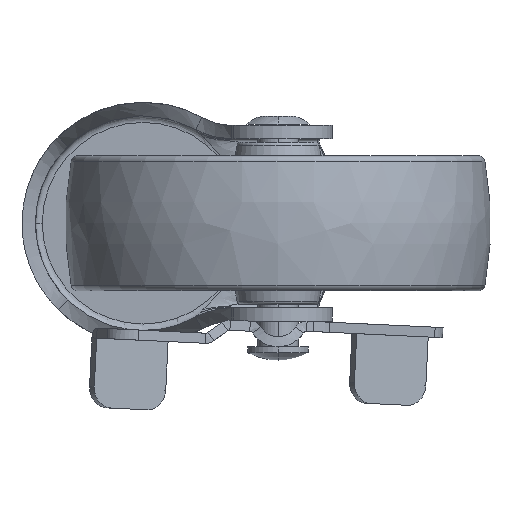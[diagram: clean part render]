
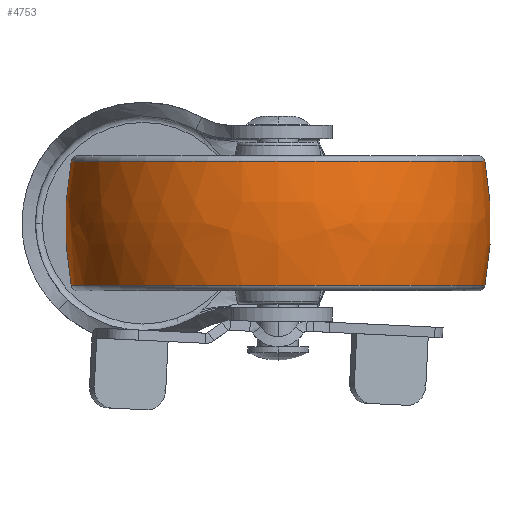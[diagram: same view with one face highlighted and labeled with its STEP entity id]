
A CAD part, front view. The second image highlights one B-rep face of the part: STEP entity #4753.
In plain terms, the highlighted free-form (B-spline) face has degree [3, 3] with [7, 4] control points.
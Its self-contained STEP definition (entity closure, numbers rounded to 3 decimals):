
#4369=CARTESIAN_POINT('',(0.,-18.5,0.));
#4370=DIRECTION('',(0.,0.,1.));
#4371=DIRECTION('',(0.184,0.983,0.));
#4372=AXIS2_PLACEMENT_3D('',#4369,#4370,#4371);
#4374=CARTESIAN_POINT('',(0.,18.5,0.));
#4375=DIRECTION('',(0.,0.,-1.));
#4376=DIRECTION('',(0.184,-0.983,0.));
#4377=AXIS2_PLACEMENT_3D('',#4374,#4375,#4376);
#4379=CARTESIAN_POINT('',(9.184,0.,0.));
#4380=DIRECTION('',(-1.,0.,0.));
#4381=DIRECTION('',(0.,1.,0.));
#4382=AXIS2_PLACEMENT_3D('',#4379,#4380,#4381);
#4404=CARTESIAN_POINT('',(-9.184,0.,0.));
#4405=DIRECTION('',(-1.,0.,0.));
#4406=DIRECTION('',(0.,1.,0.));
#4407=AXIS2_PLACEMENT_3D('',#4404,#4405,#4406);
#4498=CARTESIAN_POINT('',(9.184,30.649,0.));
#4500=VERTEX_POINT('',#4498);
#4501=CARTESIAN_POINT('',(-9.184,30.649,0.));
#4502=VERTEX_POINT('',#4501);
#4526=CARTESIAN_POINT('',(9.184,-30.649,0.));
#4528=VERTEX_POINT('',#4526);
#4529=CARTESIAN_POINT('',(-9.184,-30.649,0.));
#4530=VERTEX_POINT('',#4529);
#4715=CARTESIAN_POINT('',(-9.547,-30.52,
1.92));
#4716=CARTESIAN_POINT('',(-3.222,-31.748,
1.997));
#4717=CARTESIAN_POINT('',(3.222,-31.748,1.997));
#4718=CARTESIAN_POINT('',(9.547,-30.52,1.92));
#4719=CARTESIAN_POINT('',(-9.547,-31.701,
-16.862));
#4720=CARTESIAN_POINT('',(-3.222,-32.977,
-17.54));
#4721=CARTESIAN_POINT('',(3.222,-32.977,
-17.54));
#4722=CARTESIAN_POINT('',(9.547,-31.701,
-16.862));
#4723=CARTESIAN_POINT('',(-9.547,-18.819,
-30.58));
#4724=CARTESIAN_POINT('',(-3.222,-19.576,
-31.81));
#4725=CARTESIAN_POINT('',(3.222,-19.576,
-31.81));
#4726=CARTESIAN_POINT('',(9.547,-18.819,
-30.58));
#4727=CARTESIAN_POINT('',(-9.547,0.,-30.58));
#4728=CARTESIAN_POINT('',(-3.222,0.,
-31.81));
#4729=CARTESIAN_POINT('',(3.222,0.,
-31.81));
#4730=CARTESIAN_POINT('',(9.547,0.,
-30.58));
#4731=CARTESIAN_POINT('',(-9.547,18.819,
-30.58));
#4732=CARTESIAN_POINT('',(-3.222,19.576,
-31.81));
#4733=CARTESIAN_POINT('',(3.222,19.576,-31.81));
#4734=CARTESIAN_POINT('',(9.547,18.819,-30.58));
#4735=CARTESIAN_POINT('',(-9.547,31.701,
-16.862));
#4736=CARTESIAN_POINT('',(-3.222,32.977,
-17.54));
#4737=CARTESIAN_POINT('',(3.222,32.977,-17.54));
#4738=CARTESIAN_POINT('',(9.547,31.701,-16.862));
#4739=CARTESIAN_POINT('',(-9.547,30.52,1.92));
#4740=CARTESIAN_POINT('',(-3.222,31.748,1.997));
#4741=CARTESIAN_POINT('',(3.222,31.748,1.997));
#4742=CARTESIAN_POINT('',(9.547,30.52,1.92));
#4743=(BOUNDED_SURFACE()B_SPLINE_SURFACE(3,3,((#4715,#4716,#4717,#4718),(#4719,
#4720,#4721,#4722),(#4723,#4724,#4725,#4726),(#4727,#4728,#4729,#4730),(#4731,
#4732,#4733,#4734),(#4735,#4736,#4737,#4738),(#4739,#4740,#4741,#4742)),
.UNSPECIFIED.,.F.,.F.,.F.)B_SPLINE_SURFACE_WITH_KNOTS((4,3,4),(4,4),(0.,1.,
2.),(0.,1.),.UNSPECIFIED.)GEOMETRIC_REPRESENTATION_ITEM()RATIONAL_B_SPLINE_SURFACE(((1.198,1.184,1.184,1.198),(
0.946,0.935,0.935,0.946),(
0.946,0.935,0.935,0.946),(
1.198,1.184,1.184,1.198),(
0.946,0.935,0.935,0.946),(
0.946,0.935,0.935,0.946),(
1.198,1.184,1.184,1.198)))REPRESENTATION_ITEM('')SURFACE());
#4745=ORIENTED_EDGE('',*,*,#4744,.T.);
#4747=ORIENTED_EDGE('',*,*,#4746,.T.);
#4749=ORIENTED_EDGE('',*,*,#4748,.F.);
#4750=ORIENTED_EDGE('',*,*,#4708,.F.);
#4751=EDGE_LOOP('',(#4745,#4747,#4749,#4750));
#4752=FACE_OUTER_BOUND('',#4751,.F.);
#4373=CIRCLE('',#4372,50.);
#4378=CIRCLE('',#4377,50.);
#4383=CIRCLE('',#4382,30.649);
#4408=CIRCLE('',#4407,30.649);
#4708=EDGE_CURVE('',#4500,#4528,#4383,.T.);
#4744=EDGE_CURVE('',#4500,#4502,#4373,.T.);
#4746=EDGE_CURVE('',#4502,#4530,#4408,.T.);
#4748=EDGE_CURVE('',#4528,#4530,#4378,.T.);
#4753=ADVANCED_FACE('',(#4752),#4743,.T.);
